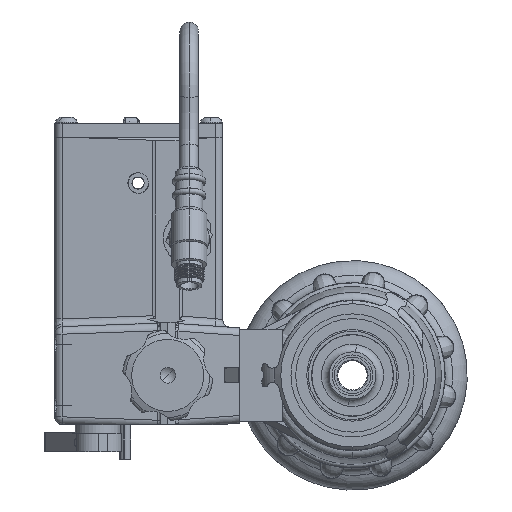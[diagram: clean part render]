
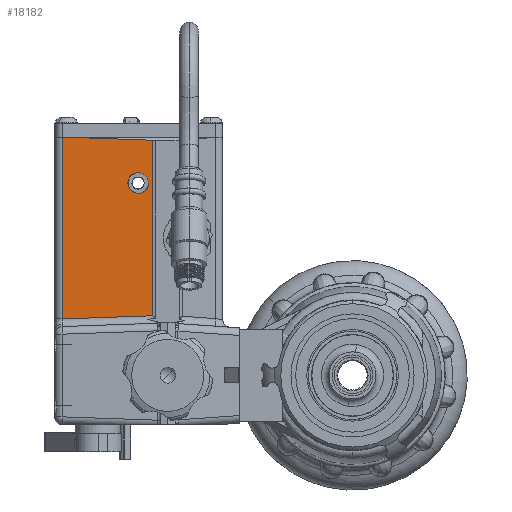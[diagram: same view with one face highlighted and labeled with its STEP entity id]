
A CAD part, left-side view. The second image highlights one B-rep face of the part: STEP entity #18182.
In plain terms, the highlighted planar face has unit normal (-0.999, 0.035, 0).
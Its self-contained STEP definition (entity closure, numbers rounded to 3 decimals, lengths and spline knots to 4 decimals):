
#1321 =( BOUNDED_CURVE ( )  B_SPLINE_CURVE ( 3, ( #41309, #41308, #41315, #41316 ),
 .UNSPECIFIED., .F., .F. ) 
 B_SPLINE_CURVE_WITH_KNOTS ( ( 4, 4 ),
 ( 0., 3.1416 ),
 .UNSPECIFIED. ) 
 CURVE ( )  GEOMETRIC_REPRESENTATION_ITEM ( )  RATIONAL_B_SPLINE_CURVE ( ( 1., 0.333, 0.333, 1. ) ) 
 REPRESENTATION_ITEM ( '' )  );
#1359 =( BOUNDED_CURVE ( )  B_SPLINE_CURVE ( 3, ( #8925, #8928, #8937, #8939 ),
 .UNSPECIFIED., .F., .F. ) 
 B_SPLINE_CURVE_WITH_KNOTS ( ( 4, 4 ),
 ( 3.1416, 6.2832 ),
 .UNSPECIFIED. ) 
 CURVE ( )  GEOMETRIC_REPRESENTATION_ITEM ( )  RATIONAL_B_SPLINE_CURVE ( ( 1., 0.333, 0.333, 1. ) ) 
 REPRESENTATION_ITEM ( '' )  );
#2785 = EDGE_LOOP ( 'NONE', ( #31756, #31758, #31760, #31762, #31764 ) ) ;
#2786 = EDGE_LOOP ( 'NONE', ( #31766, #31768 ) ) ;
#8925 = CARTESIAN_POINT ( 'NONE',  ( -5.6163, 3.6795, 3.15 ) ) ;
#8928 = CARTESIAN_POINT ( 'NONE',  ( -5.6163, 3.6795, 2.813 ) ) ;
#8937 = CARTESIAN_POINT ( 'NONE',  ( -5.6281, 3.3425, 2.813 ) ) ;
#8939 = CARTESIAN_POINT ( 'NONE',  ( -5.6281, 3.3425, 3.15 ) ) ;
#11431 = EDGE_CURVE ( 'NONE', #45477, #45460, #43976, .T. ) ;
#11433 = EDGE_CURVE ( 'NONE', #45459, #45456, #43981, .T. ) ;
#11435 = EDGE_CURVE ( 'NONE', #45456, #16318, #43982, .T. ) ;
#13635 = AXIS2_PLACEMENT_3D ( 'NONE', #14306, #14311, #14312 ) ;
#14306 = CARTESIAN_POINT ( 'NONE',  ( -5.6392, 3.026, 3.9951 ) ) ;
#14309 = PLANE ( 'NONE',  #13635 ) ;
#14311 = DIRECTION ( 'NONE',  ( -0.999, 0.035, 0. ) ) ;
#14312 = DIRECTION ( 'NONE',  ( 0.035, 0.999, 0. ) ) ;
#16274 = VERTEX_POINT ( 'NONE', #30988 ) ;
#16276 = VERTEX_POINT ( 'NONE', #30989 ) ;
#16318 = VERTEX_POINT ( 'NONE', #31010 ) ;
#18182 = ADVANCED_FACE ( 'NONE', ( #34352, #34355 ), #14309, .T. ) ;
#22620 = LINE ( 'NONE', #40035, #22623 ) ;
#22623 = VECTOR ( 'NONE', #40038, 39.3701 ) ;
#22644 = LINE ( 'NONE', #40169, #22646 ) ;
#22646 = VECTOR ( 'NONE', #40171, 39.3701 ) ;
#30988 = CARTESIAN_POINT ( 'NONE',  ( -5.6163, 3.6795, 3.15 ) ) ;
#30989 = CARTESIAN_POINT ( 'NONE',  ( -5.6281, 3.3425, 3.15 ) ) ;
#31010 = CARTESIAN_POINT ( 'NONE',  ( -5.5788, 4.7554, 0.9246 ) ) ;
#31756 = ORIENTED_EDGE ( 'NONE', *, *, #11431, .T. ) ;
#31758 = ORIENTED_EDGE ( 'NONE', *, *, #35758, .T. ) ;
#31760 = ORIENTED_EDGE ( 'NONE', *, *, #11433, .T. ) ;
#31762 = ORIENTED_EDGE ( 'NONE', *, *, #11435, .T. ) ;
#31764 = ORIENTED_EDGE ( 'NONE', *, *, #35737, .T. ) ;
#31766 = ORIENTED_EDGE ( 'NONE', *, *, #36006, .F. ) ;
#31768 = ORIENTED_EDGE ( 'NONE', *, *, #35902, .F. ) ;
#34352 = FACE_OUTER_BOUND ( 'NONE', #2785, .T. ) ;
#34355 = FACE_BOUND ( 'NONE', #2786, .T. ) ;
#35737 = EDGE_CURVE ( 'NONE', #16318, #45477, #22620, .T. ) ;
#35758 = EDGE_CURVE ( 'NONE', #45460, #45459, #22644, .T. ) ;
#35902 = EDGE_CURVE ( 'NONE', #16276, #16274, #1321, .T. ) ;
#36006 = EDGE_CURVE ( 'NONE', #16274, #16276, #1359, .T. ) ;
#39359 = CARTESIAN_POINT ( 'NONE',  ( -5.5788, 4.7554, 3.9 ) ) ;
#39362 = CARTESIAN_POINT ( 'NONE',  ( -5.5825, 4.6488, 3.9 ) ) ;
#39363 = CARTESIAN_POINT ( 'NONE',  ( -5.6306, 3.2716, 3.8519 ) ) ;
#39380 = CARTESIAN_POINT ( 'NONE',  ( -5.6306, 3.2716, 0.9764 ) ) ;
#40035 = CARTESIAN_POINT ( 'NONE',  ( -5.639, 3.0304, 0.9848 ) ) ;
#40038 = DIRECTION ( 'NONE',  ( -0.035, -0.999, 0.035 ) ) ;
#40169 = CARTESIAN_POINT ( 'NONE',  ( -5.639, 3.0313, 3.8435 ) ) ;
#40171 = DIRECTION ( 'NONE',  ( 0.035, 0.999, 0.035 ) ) ;
#41308 = CARTESIAN_POINT ( 'NONE',  ( -5.6281, 3.3425, 3.487 ) ) ;
#41309 = CARTESIAN_POINT ( 'NONE',  ( -5.6281, 3.3425, 3.15 ) ) ;
#41315 = CARTESIAN_POINT ( 'NONE',  ( -5.6163, 3.6795, 3.487 ) ) ;
#41316 = CARTESIAN_POINT ( 'NONE',  ( -5.6163, 3.6795, 3.15 ) ) ;
#43576 = CARTESIAN_POINT ( 'NONE',  ( -5.6306, 3.2716, 3.973 ) ) ;
#43577 = CARTESIAN_POINT ( 'NONE',  ( -5.6392, 3.026, 3.9 ) ) ;
#43580 = DIRECTION ( 'NONE',  ( 0., 0., 1. ) ) ;
#43581 = DIRECTION ( 'NONE',  ( 0.035, 0.999, 0. ) ) ;
#43582 = CARTESIAN_POINT ( 'NONE',  ( -5.5788, 4.7554, 0.7955 ) ) ;
#43583 = DIRECTION ( 'NONE',  ( 0., 0., -1. ) ) ;
#43976 = LINE ( 'NONE', #43576, #43978 ) ;
#43978 = VECTOR ( 'NONE', #43580, 39.3701 ) ;
#43981 = LINE ( 'NONE', #43577, #43983 ) ;
#43982 = LINE ( 'NONE', #43582, #43985 ) ;
#43983 = VECTOR ( 'NONE', #43581, 39.3701 ) ;
#43985 = VECTOR ( 'NONE', #43583, 39.3701 ) ;
#45456 = VERTEX_POINT ( 'NONE', #39359 ) ;
#45459 = VERTEX_POINT ( 'NONE', #39362 ) ;
#45460 = VERTEX_POINT ( 'NONE', #39363 ) ;
#45477 = VERTEX_POINT ( 'NONE', #39380 ) ;
